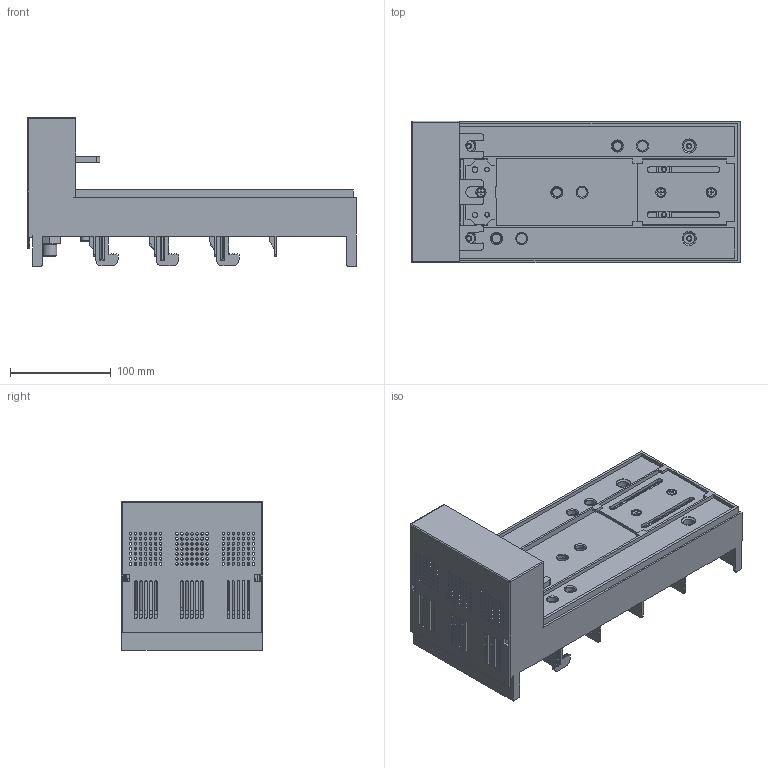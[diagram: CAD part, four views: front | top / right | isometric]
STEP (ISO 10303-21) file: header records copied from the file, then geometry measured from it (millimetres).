
FILE_DESCRIPTION (( 'STEP AP203' ), '1' );
FILE_NAME ('55073.STEP', '2021-08-28T01:12:50', ( '' ), ( '' ), 'SwSTEP 2.0', 'SolidWorks 2017', '' );
FILE_SCHEMA (( 'CONFIG_CONTROL_DESIGN' ));
Products named in the file (2): 55073
Bounding box: 327 x 140.5 x 148 mm (x, y, z)
Volume: 1721577.3 mm3; surface area: 428075.7 mm2
Topology: 24 solids, 51 shells, 4296 faces, 11548 edges, 7421 vertices
Faces by surface type: plane 3348, cylinder 706, bspline 139, cone 86, torus 11, sphere 6
Full cylindrical faces by diameter (mm): 1.2 x8, 2.5 x147, 4 x5, 4.2 x8, 4.5 x3, 5.2 x2, 5.5 x4, 8 x7, 8.5 x8, 9.5 x2, 10 x10, 11 x7, 12 x15, 12.4 x3, 14 x12, 18 x3, 20 x3, 27.4 x3
Entity records: 142469 total; most frequent: CARTESIAN_POINT 36732, ORIENTED_EDGE 22302, DIRECTION 20230, EDGE_CURVE 11151, VECTOR 8926, LINE 8926, VERTEX_POINT 7373, AXIS2_PLACEMENT_3D 5652
